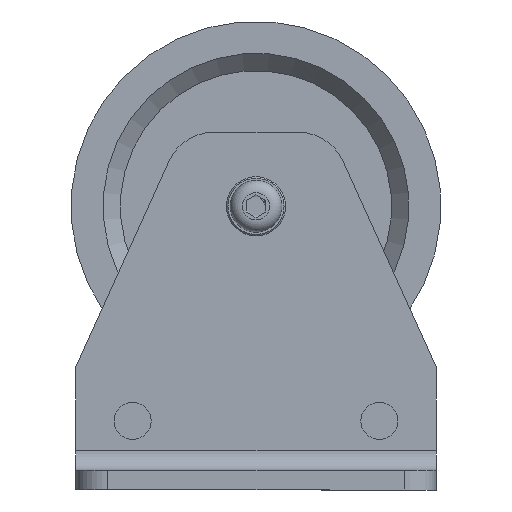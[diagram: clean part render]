
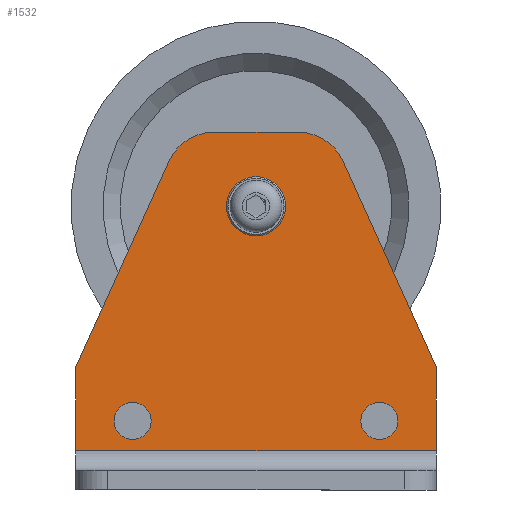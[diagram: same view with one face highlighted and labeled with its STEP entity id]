
A CAD part, front view. The second image highlights one B-rep face of the part: STEP entity #1532.
In plain terms, the highlighted planar face has unit normal (0, -1, 0) as drawn and (0, 0, 1) by its records, which use the part's own axes.
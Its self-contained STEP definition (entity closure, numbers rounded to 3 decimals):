
#125=FACE_BOUND('',#308,.T.);
#126=FACE_BOUND('',#309,.T.);
#127=FACE_BOUND('',#310,.T.);
#157=PLANE('',#1829);
#213=FACE_OUTER_BOUND('',#307,.T.);
#307=EDGE_LOOP('',(#1189,#1190,#1191,#1192,#1193,#1194,#1195,#1196));
#308=EDGE_LOOP('',(#1197));
#309=EDGE_LOOP('',(#1198));
#310=EDGE_LOOP('',(#1199));
#412=LINE('',#2628,#507);
#415=LINE('',#2634,#510);
#423=LINE('',#2668,#518);
#427=LINE('',#2677,#522);
#430=LINE('',#2684,#525);
#431=LINE('',#2686,#526);
#507=VECTOR('',#2099,10.);
#510=VECTOR('',#2104,10.);
#518=VECTOR('',#2138,10.);
#522=VECTOR('',#2148,10.);
#525=VECTOR('',#2157,10.);
#526=VECTOR('',#2160,10.);
#590=CIRCLE('',#1816,7.5);
#591=CIRCLE('',#1818,7.5);
#592=CIRCLE('',#1820,6.3);
#593=CIRCLE('',#1823,20.);
#594=CIRCLE('',#1826,20.);
#709=VERTEX_POINT('',#2619);
#710=VERTEX_POINT('',#2623);
#712=VERTEX_POINT('',#2632);
#721=VERTEX_POINT('',#2654);
#722=VERTEX_POINT('',#2658);
#723=VERTEX_POINT('',#2662);
#724=VERTEX_POINT('',#2666);
#725=VERTEX_POINT('',#2667);
#726=VERTEX_POINT('',#2672);
#727=VERTEX_POINT('',#2676);
#728=VERTEX_POINT('',#2680);
#875=EDGE_CURVE('',#709,#710,#412,.T.);
#878=EDGE_CURVE('',#712,#710,#415,.T.);
#889=EDGE_CURVE('',#721,#721,#590,.T.);
#891=EDGE_CURVE('',#722,#722,#591,.T.);
#893=EDGE_CURVE('',#723,#723,#592,.T.);
#894=EDGE_CURVE('',#724,#725,#423,.T.);
#897=EDGE_CURVE('',#725,#726,#593,.T.);
#899=EDGE_CURVE('',#726,#727,#427,.T.);
#901=EDGE_CURVE('',#727,#728,#594,.T.);
#903=EDGE_CURVE('',#728,#712,#430,.T.);
#904=EDGE_CURVE('',#709,#724,#431,.T.);
#1189=ORIENTED_EDGE('',*,*,#875,.T.);
#1190=ORIENTED_EDGE('',*,*,#878,.F.);
#1191=ORIENTED_EDGE('',*,*,#903,.F.);
#1192=ORIENTED_EDGE('',*,*,#901,.F.);
#1193=ORIENTED_EDGE('',*,*,#899,.F.);
#1194=ORIENTED_EDGE('',*,*,#897,.F.);
#1195=ORIENTED_EDGE('',*,*,#894,.F.);
#1196=ORIENTED_EDGE('',*,*,#904,.F.);
#1197=ORIENTED_EDGE('',*,*,#889,.T.);
#1198=ORIENTED_EDGE('',*,*,#891,.T.);
#1199=ORIENTED_EDGE('',*,*,#893,.T.);
#1532=ADVANCED_FACE('',(#213,#125,#126,#127),#157,.T.);
#1816=AXIS2_PLACEMENT_3D('',#2656,#2124,#2125);
#1818=AXIS2_PLACEMENT_3D('',#2660,#2129,#2130);
#1820=AXIS2_PLACEMENT_3D('',#2664,#2134,#2135);
#1823=AXIS2_PLACEMENT_3D('',#2673,#2143,#2144);
#1826=AXIS2_PLACEMENT_3D('',#2681,#2152,#2153);
#1829=AXIS2_PLACEMENT_3D('',#2687,#2161,#2162);
#2099=DIRECTION('',(1.,0.,0.));
#2104=DIRECTION('',(0.,-1.,0.));
#2124=DIRECTION('center_axis',(0.,0.,-1.));
#2125=DIRECTION('ref_axis',(-1.,0.,0.));
#2129=DIRECTION('center_axis',(0.,0.,-1.));
#2130=DIRECTION('ref_axis',(-1.,0.,0.));
#2134=DIRECTION('center_axis',(0.,0.,-1.));
#2135=DIRECTION('ref_axis',(-1.,0.,0.));
#2138=DIRECTION('',(0.412,0.911,0.));
#2143=DIRECTION('center_axis',(0.,0.,-1.));
#2144=DIRECTION('ref_axis',(0.,1.,0.));
#2148=DIRECTION('',(1.,0.,0.));
#2152=DIRECTION('center_axis',(0.,0.,-1.));
#2153=DIRECTION('ref_axis',(0.911,0.412,0.));
#2157=DIRECTION('',(0.412,-0.911,0.));
#2160=DIRECTION('',(0.,1.,0.));
#2161=DIRECTION('center_axis',(0.,0.,1.));
#2162=DIRECTION('ref_axis',(1.,0.,0.));
#2619=CARTESIAN_POINT('',(-73.,16.,8.));
#2623=CARTESIAN_POINT('',(73.,16.,8.));
#2628=CARTESIAN_POINT('',(36.5,16.,8.));
#2632=CARTESIAN_POINT('',(73.,50.,8.));
#2634=CARTESIAN_POINT('',(73.,0.,8.));
#2654=CARTESIAN_POINT('',(57.5,28.,8.));
#2656=CARTESIAN_POINT('Origin',(50.,28.,8.));
#2658=CARTESIAN_POINT('',(-42.5,28.,8.));
#2660=CARTESIAN_POINT('Origin',(-50.,28.,8.));
#2662=CARTESIAN_POINT('',(6.3,115.,8.));
#2664=CARTESIAN_POINT('Origin',(0.,115.,8.));
#2666=CARTESIAN_POINT('',(-73.,50.,8.));
#2667=CARTESIAN_POINT('',(-35.32,133.247,8.));
#2668=CARTESIAN_POINT('',(-35.32,133.247,8.));
#2672=CARTESIAN_POINT('',(-17.099,145.,8.));
#2673=CARTESIAN_POINT('Origin',(-17.099,125.,8.));
#2676=CARTESIAN_POINT('',(17.099,145.,8.));
#2677=CARTESIAN_POINT('',(17.099,145.,8.));
#2680=CARTESIAN_POINT('',(35.32,133.247,8.));
#2681=CARTESIAN_POINT('Origin',(17.099,125.,8.));
#2684=CARTESIAN_POINT('',(73.,50.,8.));
#2686=CARTESIAN_POINT('',(-73.,50.,8.));
#2687=CARTESIAN_POINT('Origin',(0.,60.247,8.));
